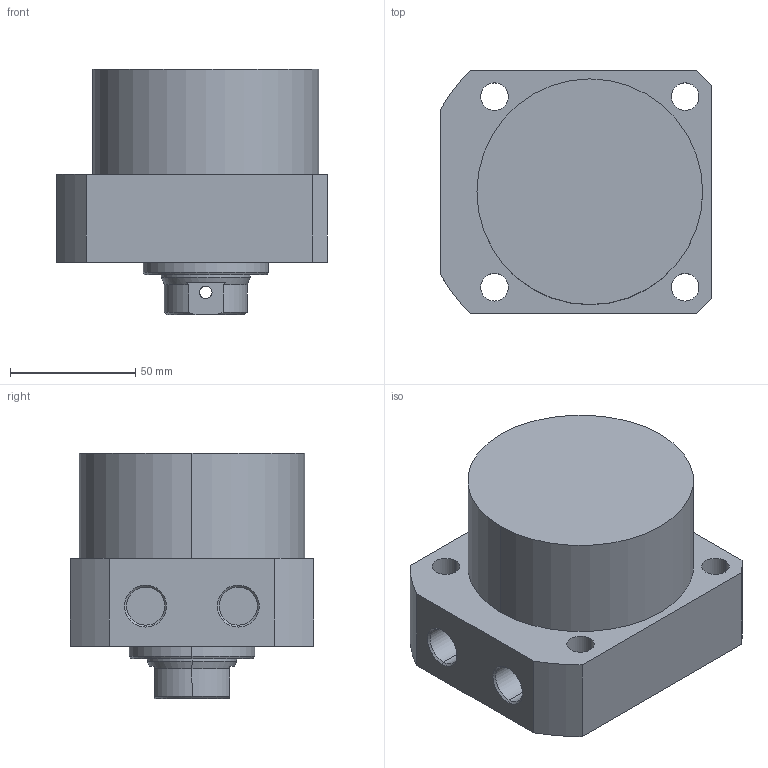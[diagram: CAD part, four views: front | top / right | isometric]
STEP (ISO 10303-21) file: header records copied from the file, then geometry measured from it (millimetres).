
FILE_DESCRIPTION (( 'STEP AP203' ), '1' );
FILE_NAME ('CLLR-090CB-020.STEP', '2019-12-19T02:25:38', ( '' ), ( '' ), 'SwSTEP 2.0', 'SolidWorks 2015', '' );
FILE_SCHEMA (( 'CONFIG_CONTROL_DESIGN' ));
Length unit declared in the file: millimetre
Products named in the file (1): CLLR-090CB-020
Bounding box: 108 x 97 x 98 mm (x, y, z)
Volume: 617206.6 mm3; surface area: 57060.9 mm2
Topology: 1 solids, 1 shells, 67 faces, 161 edges, 102 vertices
Faces by surface type: cylinder 33, plane 19, cone 15
Entity records: 2179 total; most frequent: CARTESIAN_POINT 477, DIRECTION 360, ORIENTED_EDGE 318, EDGE_CURVE 159, AXIS2_PLACEMENT_3D 145, VERTEX_POINT 102, EDGE_LOOP 87, CIRCLE 77
